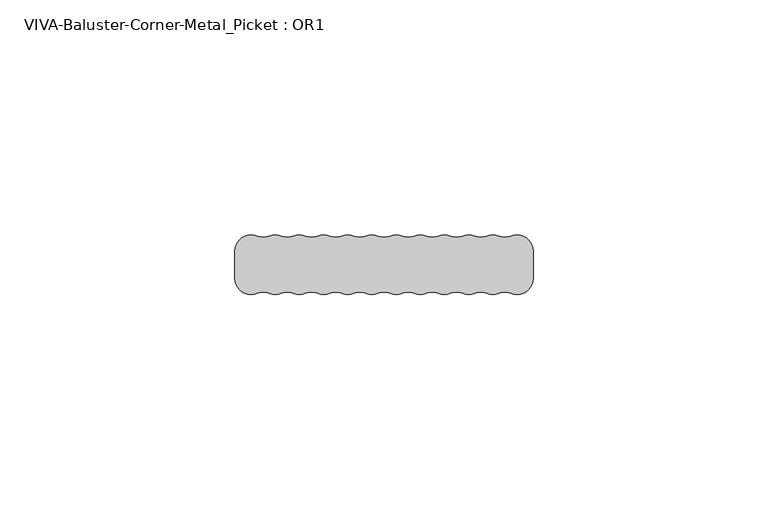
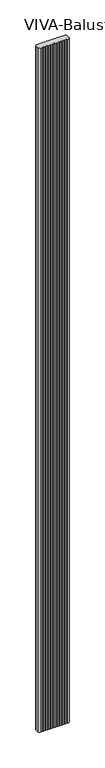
"""IFC4 building model written with IfcOpenShell, lengths in millimetres: railing geometry, VIVA-Baluster-Corner-Metal_Picket : OR1."""

from ifc_helpers import new_model, si_unit, frame, origin, place, context, project, spatial, polyline, circle_curve, source, transform, mapped, element, save
from ifc_brep_helpers import plane_surface, cylinder_surface, revolved_surface, advanced_brep


def viva_baluster_corner_metal_picket_or1_3f157a00(model_context):
    return source(origin(), model_context, "Body", "AdvancedBrep", [
        advanced_brep(
        [(51.9173652, 289.0424232, 1219.2), (49.3434933, 289.0424232, 1219.2), (46.7696213, 289.0424232, 1219.2), (44.1957493, 289.0424232, 1219.2), (41.6218774, 289.0424232, 1219.2), (39.0480054, 289.0424232, 1219.2), (36.4741335, 289.0424232, 1219.2), (33.9002615, 289.0424232, 1219.2), (31.3263895, 289.0424232, 1219.2), (28.7525176, 289.0424232, 1219.2), (26.1786456, 289.0424232, 1219.2), (23.6047737, 289.0424232, 1219.2), (21.0309017, 289.0424232, 1219.2), (18.4570297, 289.0424232, 1219.2), (15.8831578, 289.0424232, 1219.2), (13.3092858, 289.0424232, 1219.2), (10.7354138, 289.0424232, 1219.2), (8.1615419, 289.0424232, 1219.2), (5.5876699, 289.0424232, 1219.2), (3.013798, 289.0424232, 1219.2), (0.439926, 289.0424232, 1219.2), (-2.133946, 289.0424232, 1219.2), (-6.8582904, 285.8550148, 1219.2), (-6.8582904, 280.0298316, 1219.2), (-2.1339459, 276.8424232, 1219.2), (0.439926, 276.8424232, 1219.2), (3.013798, 276.8424232, 1219.2), (5.5876699, 276.8424232, 1219.2), (8.1615419, 276.8424232, 1219.2), (10.7354139, 276.8424232, 1219.2), (13.3092858, 276.8424232, 1219.2), (15.8831578, 276.8424232, 1219.2), (18.4570297, 276.8424232, 1219.2), (21.0309017, 276.8424232, 1219.2), (23.6047737, 276.8424232, 1219.2), (26.1786456, 276.8424232, 1219.2), (28.7525176, 276.8424232, 1219.2), (31.3263895, 276.8424232, 1219.2), (33.9002615, 276.8424232, 1219.2), (36.4741335, 276.8424232, 1219.2), (39.0480054, 276.8424232, 1219.2), (41.6218774, 276.8424232, 1219.2), (44.1957493, 276.8424232, 1219.2), (46.7696213, 276.8424232, 1219.2), (49.3434933, 276.8424232, 1219.2), (51.9173652, 276.8424232, 1219.2), (56.6417096, 280.0298317, 1219.2), (56.6417096, 285.8550148, 1219.2), (51.9173652, 289.0424232, -245.8945017), (56.6417096, 285.8550148, -245.8945017), (56.6417096, 280.0298317, -245.8945017), (51.9173652, 276.8424232, -245.8945017), (49.3434933, 276.8424232, -245.8945017), (46.7696213, 276.8424232, -245.8945017), (44.1957493, 276.8424232, -245.8945017), (41.6218774, 276.8424232, -245.8945017), (39.0480054, 276.8424232, -245.8945017), (36.4741335, 276.8424232, -245.8945017), (33.9002615, 276.8424232, -245.8945017), (31.3263895, 276.8424232, -245.8945017), (28.7525176, 276.8424232, -245.8945017), (26.1786456, 276.8424232, -245.8945017), (23.6047737, 276.8424232, -245.8945017), (21.0309017, 276.8424232, -245.8945017), (18.4570297, 276.8424232, -245.8945017), (15.8831578, 276.8424232, -245.8945017), (13.3092858, 276.8424232, -245.8945017), (10.7354138, 276.8424232, -245.8945017), (8.1615419, 276.8424232, -245.8945017), (5.5876699, 276.8424232, -245.8945017), (3.013798, 276.8424232, -245.8945017), (0.439926, 276.8424232, -245.8945017), (-2.133946, 276.8424232, -245.8945017), (-6.8582904, 280.0298317, -245.8945017), (-6.8582904, 285.8550148, -245.8945017), (-2.133946, 289.0424232, -245.8945017), (0.439926, 289.0424232, -245.8945017), (3.013798, 289.0424232, -245.8945017), (5.5876699, 289.0424232, -245.8945017), (8.1615419, 289.0424232, -245.8945017), (10.7354139, 289.0424232, -245.8945017), (13.3092858, 289.0424232, -245.8945017), (15.8831578, 289.0424232, -245.8945017), (18.4570297, 289.0424232, -245.8945017), (21.0309017, 289.0424232, -245.8945017), (23.6047737, 289.0424232, -245.8945017), (26.1786456, 289.0424232, -245.8945017), (28.7525176, 289.0424232, -245.8945017), (31.3263895, 289.0424232, -245.8945017), (33.9002615, 289.0424232, -245.8945017), (36.4741335, 289.0424232, -245.8945017), (39.0480054, 289.0424232, -245.8945017), (41.6218774, 289.0424232, -245.8945017), (44.1957493, 289.0424232, -245.8945017), (46.7696213, 289.0424232, -245.8945017), (49.3434933, 289.0424232, -245.8945017)],
        [
            (0, 1, circle_curve(frame((50.6304292, 292.2298317, 1219.2), z_axis=(0.0, 0.0, -1.0), x_axis=(1.0, 0.0, 0.0)), 3.4374084)),
            (1, 2, circle_curve(frame((48.0565573, 285.8550148, 1219.2), z_axis=(0.0, 0.0, 1.0), x_axis=(1.0, 0.0, 0.0)), 3.4374084)),
            (2, 3, circle_curve(frame((45.4826853, 292.2298317, 1219.2), z_axis=(0.0, 0.0, -1.0), x_axis=(1.0, 0.0, 0.0)), 3.4374084)),
            (3, 4, circle_curve(frame((42.9088134, 285.8550148, 1219.2), z_axis=(0.0, 0.0, 1.0), x_axis=(1.0, 0.0, 0.0)), 3.4374084)),
            (4, 5, circle_curve(frame((40.3349414, 292.2298317, 1219.2), z_axis=(0.0, 0.0, -1.0), x_axis=(1.0, 0.0, 0.0)), 3.4374084)),
            (5, 6, circle_curve(frame((37.7610694, 285.8550148, 1219.2), z_axis=(0.0, 0.0, 1.0), x_axis=(1.0, 0.0, 0.0)), 3.4374084)),
            (6, 7, circle_curve(frame((35.1871975, 292.2298317, 1219.2), z_axis=(0.0, 0.0, -1.0), x_axis=(1.0, 0.0, 0.0)), 3.4374084)),
            (7, 8, circle_curve(frame((32.6133255, 285.8550148, 1219.2), z_axis=(0.0, 0.0, 1.0), x_axis=(1.0, 0.0, 0.0)), 3.4374084)),
            (8, 9, circle_curve(frame((30.0394536, 292.2298317, 1219.2), z_axis=(0.0, 0.0, -1.0), x_axis=(1.0, 0.0, 0.0)), 3.4374084)),
            (9, 10, circle_curve(frame((27.4655816, 285.8550148, 1219.2), z_axis=(0.0, 0.0, 1.0), x_axis=(1.0, 0.0, 0.0)), 3.4374084)),
            (10, 11, circle_curve(frame((24.8917096, 292.2298317, 1219.2), z_axis=(0.0, 0.0, -1.0), x_axis=(1.0, 0.0, 0.0)), 3.4374084)),
            (11, 12, circle_curve(frame((22.3178377, 285.8550148, 1219.2), z_axis=(0.0, 0.0, 1.0), x_axis=(1.0, 0.0, 0.0)), 3.4374084)),
            (12, 13, circle_curve(frame((19.7439657, 292.2298317, 1219.2), z_axis=(0.0, 0.0, -1.0), x_axis=(1.0, 0.0, 0.0)), 3.4374084)),
            (13, 14, circle_curve(frame((17.1700938, 285.8550148, 1219.2), z_axis=(0.0, 0.0, 1.0), x_axis=(1.0, 0.0, 0.0)), 3.4374084)),
            (14, 15, circle_curve(frame((14.5962218, 292.2298317, 1219.2), z_axis=(0.0, 0.0, -1.0), x_axis=(1.0, 0.0, 0.0)), 3.4374084)),
            (15, 16, circle_curve(frame((12.0223498, 285.8550148, 1219.2), z_axis=(0.0, 0.0, 1.0), x_axis=(1.0, 0.0, 0.0)), 3.4374084)),
            (16, 17, circle_curve(frame((9.4484779, 292.2298317, 1219.2), z_axis=(0.0, 0.0, -1.0), x_axis=(1.0, 0.0, 0.0)), 3.4374084)),
            (17, 18, circle_curve(frame((6.8746059, 285.8550148, 1219.2), z_axis=(0.0, 0.0, 1.0), x_axis=(1.0, 0.0, 0.0)), 3.4374084)),
            (18, 19, circle_curve(frame((4.3007339, 292.2298316, 1219.2), z_axis=(0.0, 0.0, -1.0), x_axis=(1.0, 0.0, 0.0)), 3.4374084)),
            (19, 20, circle_curve(frame((1.726862, 285.8550148, 1219.2), z_axis=(0.0, 0.0, 1.0), x_axis=(1.0, 0.0, 0.0)), 3.4374084)),
            (20, 21, circle_curve(frame((-0.84701, 292.2298316, 1219.2), z_axis=(0.0, 0.0, -1.0), x_axis=(1.0, 0.0, 0.0)), 3.4374084)),
            (21, 22, circle_curve(frame((-3.4208819, 285.8550148, 1219.2), z_axis=(0.0, 0.0, 1.0), x_axis=(1.0, 0.0, 0.0)), 3.4374084)),
            (22, 23),
            (23, 24, circle_curve(frame((-3.4208819, 280.0298317, 1219.2), z_axis=(0.0, 0.0, 1.0), x_axis=(1.0, 0.0, 0.0)), 3.4374084)),
            (24, 25, circle_curve(frame((-0.84701, 273.6550148, 1219.2), z_axis=(0.0, 0.0, -1.0), x_axis=(1.0, 0.0, 0.0)), 3.4374084)),
            (25, 26, circle_curve(frame((1.726862, 280.0298317, 1219.2), z_axis=(0.0, 0.0, 1.0), x_axis=(1.0, 0.0, 0.0)), 3.4374084)),
            (26, 27, circle_curve(frame((4.3007339, 273.6550148, 1219.2), z_axis=(0.0, 0.0, -1.0), x_axis=(1.0, 0.0, 0.0)), 3.4374084)),
            (27, 28, circle_curve(frame((6.8746059, 280.0298317, 1219.2), z_axis=(0.0, 0.0, 1.0), x_axis=(1.0, 0.0, 0.0)), 3.4374084)),
            (28, 29, circle_curve(frame((9.4484779, 273.6550148, 1219.2), z_axis=(0.0, 0.0, -1.0), x_axis=(1.0, 0.0, 0.0)), 3.4374084)),
            (29, 30, circle_curve(frame((12.0223498, 280.0298317, 1219.2), z_axis=(0.0, 0.0, 1.0), x_axis=(1.0, 0.0, 0.0)), 3.4374084)),
            (30, 31, circle_curve(frame((14.5962218, 273.6550148, 1219.2), z_axis=(0.0, 0.0, -1.0), x_axis=(1.0, 0.0, 0.0)), 3.4374084)),
            (31, 32, circle_curve(frame((17.1700938, 280.0298317, 1219.2), z_axis=(0.0, 0.0, 1.0), x_axis=(1.0, 0.0, 0.0)), 3.4374084)),
            (32, 33, circle_curve(frame((19.7439657, 273.6550148, 1219.2), z_axis=(0.0, 0.0, -1.0), x_axis=(1.0, 0.0, 0.0)), 3.4374084)),
            (33, 34, circle_curve(frame((22.3178377, 280.0298317, 1219.2), z_axis=(0.0, 0.0, 1.0), x_axis=(1.0, 0.0, 0.0)), 3.4374084)),
            (34, 35, circle_curve(frame((24.8917096, 273.6550148, 1219.2), z_axis=(0.0, 0.0, -1.0), x_axis=(1.0, 0.0, 0.0)), 3.4374084)),
            (35, 36, circle_curve(frame((27.4655816, 280.0298317, 1219.2), z_axis=(0.0, 0.0, 1.0), x_axis=(1.0, 0.0, 0.0)), 3.4374084)),
            (36, 37, circle_curve(frame((30.0394536, 273.6550148, 1219.2), z_axis=(0.0, 0.0, -1.0), x_axis=(1.0, 0.0, 0.0)), 3.4374084)),
            (37, 38, circle_curve(frame((32.6133255, 280.0298317, 1219.2), z_axis=(0.0, 0.0, 1.0), x_axis=(1.0, 0.0, 0.0)), 3.4374084)),
            (38, 39, circle_curve(frame((35.1871975, 273.6550148, 1219.2), z_axis=(0.0, 0.0, -1.0), x_axis=(1.0, 0.0, 0.0)), 3.4374084)),
            (39, 40, circle_curve(frame((37.7610694, 280.0298317, 1219.2), z_axis=(0.0, 0.0, 1.0), x_axis=(1.0, 0.0, 0.0)), 3.4374084)),
            (40, 41, circle_curve(frame((40.3349414, 273.6550148, 1219.2), z_axis=(0.0, 0.0, -1.0), x_axis=(1.0, 0.0, 0.0)), 3.4374084)),
            (41, 42, circle_curve(frame((42.9088134, 280.0298317, 1219.2), z_axis=(0.0, 0.0, 1.0), x_axis=(1.0, 0.0, 0.0)), 3.4374084)),
            (42, 43, circle_curve(frame((45.4826853, 273.6550148, 1219.2), z_axis=(0.0, 0.0, -1.0), x_axis=(1.0, 0.0, 0.0)), 3.4374084)),
            (43, 44, circle_curve(frame((48.0565573, 280.0298317, 1219.2), z_axis=(0.0, 0.0, 1.0), x_axis=(1.0, 0.0, 0.0)), 3.4374084)),
            (44, 45, circle_curve(frame((50.6304292, 273.6550148, 1219.2), z_axis=(0.0, 0.0, -1.0), x_axis=(1.0, 0.0, 0.0)), 3.4374084)),
            (45, 46, circle_curve(frame((53.2043012, 280.0298317, 1219.2), z_axis=(0.0, 0.0, 1.0), x_axis=(1.0, 0.0, 0.0)), 3.4374084)),
            (46, 47),
            (47, 0, circle_curve(frame((53.2043012, 285.8550148, 1219.2), z_axis=(0.0, 0.0, 1.0), x_axis=(1.0, 0.0, 0.0)), 3.4374084)),
            (48, 49, circle_curve(frame((53.2043012, 285.8550148, -245.8945017), z_axis=(0.0, 0.0, -1.0), x_axis=(1.0, 0.0, 0.0)), 3.4374084)),
            (49, 50),
            (50, 51, circle_curve(frame((53.2043012, 280.0298317, -245.8945017), z_axis=(0.0, 0.0, -1.0), x_axis=(1.0, 0.0, 0.0)), 3.4374084)),
            (51, 52, circle_curve(frame((50.6304292, 273.6550148, -245.8945017), z_axis=(0.0, 0.0, 1.0), x_axis=(1.0, 0.0, 0.0)), 3.4374084)),
            (52, 53, circle_curve(frame((48.0565573, 280.0298317, -245.8945017), z_axis=(0.0, 0.0, -1.0), x_axis=(1.0, 0.0, 0.0)), 3.4374084)),
            (53, 54, circle_curve(frame((45.4826853, 273.6550148, -245.8945017), z_axis=(0.0, 0.0, 1.0), x_axis=(1.0, 0.0, 0.0)), 3.4374084)),
            (54, 55, circle_curve(frame((42.9088134, 280.0298317, -245.8945017), z_axis=(0.0, 0.0, -1.0), x_axis=(1.0, 0.0, 0.0)), 3.4374084)),
            (55, 56, circle_curve(frame((40.3349414, 273.6550148, -245.8945017), z_axis=(0.0, 0.0, 1.0), x_axis=(1.0, 0.0, 0.0)), 3.4374084)),
            (56, 57, circle_curve(frame((37.7610694, 280.0298317, -245.8945017), z_axis=(0.0, 0.0, -1.0), x_axis=(1.0, 0.0, 0.0)), 3.4374084)),
            (57, 58, circle_curve(frame((35.1871975, 273.6550148, -245.8945017), z_axis=(0.0, 0.0, 1.0), x_axis=(1.0, 0.0, 0.0)), 3.4374084)),
            (58, 59, circle_curve(frame((32.6133255, 280.0298317, -245.8945017), z_axis=(0.0, 0.0, -1.0), x_axis=(1.0, 0.0, 0.0)), 3.4374084)),
            (59, 60, circle_curve(frame((30.0394536, 273.6550148, -245.8945017), z_axis=(0.0, 0.0, 1.0), x_axis=(1.0, 0.0, 0.0)), 3.4374084)),
            (60, 61, circle_curve(frame((27.4655816, 280.0298317, -245.8945017), z_axis=(0.0, 0.0, -1.0), x_axis=(1.0, 0.0, 0.0)), 3.4374084)),
            (61, 62, circle_curve(frame((24.8917096, 273.6550148, -245.8945017), z_axis=(0.0, 0.0, 1.0), x_axis=(1.0, 0.0, 0.0)), 3.4374084)),
            (62, 63, circle_curve(frame((22.3178377, 280.0298317, -245.8945017), z_axis=(0.0, 0.0, -1.0), x_axis=(1.0, 0.0, 0.0)), 3.4374084)),
            (63, 64, circle_curve(frame((19.7439657, 273.6550148, -245.8945017), z_axis=(0.0, 0.0, 1.0), x_axis=(1.0, 0.0, 0.0)), 3.4374084)),
            (64, 65, circle_curve(frame((17.1700938, 280.0298317, -245.8945017), z_axis=(0.0, 0.0, -1.0), x_axis=(1.0, 0.0, 0.0)), 3.4374084)),
            (65, 66, circle_curve(frame((14.5962218, 273.6550148, -245.8945017), z_axis=(0.0, 0.0, 1.0), x_axis=(1.0, 0.0, 0.0)), 3.4374084)),
            (66, 67, circle_curve(frame((12.0223498, 280.0298317, -245.8945017), z_axis=(0.0, 0.0, -1.0), x_axis=(1.0, 0.0, 0.0)), 3.4374084)),
            (67, 68, circle_curve(frame((9.4484779, 273.6550148, -245.8945017), z_axis=(0.0, 0.0, 1.0), x_axis=(1.0, 0.0, 0.0)), 3.4374084)),
            (68, 69, circle_curve(frame((6.8746059, 280.0298317, -245.8945017), z_axis=(0.0, 0.0, -1.0), x_axis=(1.0, 0.0, 0.0)), 3.4374084)),
            (69, 70, circle_curve(frame((4.3007339, 273.6550148, -245.8945017), z_axis=(0.0, 0.0, 1.0), x_axis=(1.0, 0.0, 0.0)), 3.4374084)),
            (70, 71, circle_curve(frame((1.726862, 280.0298317, -245.8945017), z_axis=(0.0, 0.0, -1.0), x_axis=(1.0, 0.0, 0.0)), 3.4374084)),
            (71, 72, circle_curve(frame((-0.84701, 273.6550148, -245.8945017), z_axis=(0.0, 0.0, 1.0), x_axis=(1.0, 0.0, 0.0)), 3.4374084)),
            (72, 73, circle_curve(frame((-3.4208819, 280.0298317, -245.8945017), z_axis=(0.0, 0.0, -1.0), x_axis=(1.0, 0.0, 0.0)), 3.4374084)),
            (73, 74),
            (74, 75, circle_curve(frame((-3.4208819, 285.8550148, -245.8945017), z_axis=(0.0, 0.0, -1.0), x_axis=(1.0, 0.0, 0.0)), 3.4374084)),
            (75, 76, circle_curve(frame((-0.84701, 292.2298316, -245.8945017), z_axis=(0.0, 0.0, 1.0), x_axis=(1.0, 0.0, 0.0)), 3.4374084)),
            (76, 77, circle_curve(frame((1.726862, 285.8550148, -245.8945017), z_axis=(0.0, 0.0, -1.0), x_axis=(1.0, 0.0, 0.0)), 3.4374084)),
            (77, 78, circle_curve(frame((4.3007339, 292.2298316, -245.8945017), z_axis=(0.0, 0.0, 1.0), x_axis=(1.0, 0.0, 0.0)), 3.4374084)),
            (78, 79, circle_curve(frame((6.8746059, 285.8550148, -245.8945017), z_axis=(0.0, 0.0, -1.0), x_axis=(1.0, 0.0, 0.0)), 3.4374084)),
            (79, 80, circle_curve(frame((9.4484779, 292.2298317, -245.8945017), z_axis=(0.0, 0.0, 1.0), x_axis=(1.0, 0.0, 0.0)), 3.4374084)),
            (80, 81, circle_curve(frame((12.0223498, 285.8550148, -245.8945017), z_axis=(0.0, 0.0, -1.0), x_axis=(1.0, 0.0, 0.0)), 3.4374084)),
            (81, 82, circle_curve(frame((14.5962218, 292.2298317, -245.8945017), z_axis=(0.0, 0.0, 1.0), x_axis=(1.0, 0.0, 0.0)), 3.4374084)),
            (82, 83, circle_curve(frame((17.1700938, 285.8550148, -245.8945017), z_axis=(0.0, 0.0, -1.0), x_axis=(1.0, 0.0, 0.0)), 3.4374084)),
            (83, 84, circle_curve(frame((19.7439657, 292.2298317, -245.8945017), z_axis=(0.0, 0.0, 1.0), x_axis=(1.0, 0.0, 0.0)), 3.4374084)),
            (84, 85, circle_curve(frame((22.3178377, 285.8550148, -245.8945017), z_axis=(0.0, 0.0, -1.0), x_axis=(1.0, 0.0, 0.0)), 3.4374084)),
            (85, 86, circle_curve(frame((24.8917096, 292.2298317, -245.8945017), z_axis=(0.0, 0.0, 1.0), x_axis=(1.0, 0.0, 0.0)), 3.4374084)),
            (86, 87, circle_curve(frame((27.4655816, 285.8550148, -245.8945017), z_axis=(0.0, 0.0, -1.0), x_axis=(1.0, 0.0, 0.0)), 3.4374084)),
            (87, 88, circle_curve(frame((30.0394536, 292.2298317, -245.8945017), z_axis=(0.0, 0.0, 1.0), x_axis=(1.0, 0.0, 0.0)), 3.4374084)),
            (88, 89, circle_curve(frame((32.6133255, 285.8550148, -245.8945017), z_axis=(0.0, 0.0, -1.0), x_axis=(1.0, 0.0, 0.0)), 3.4374084)),
            (89, 90, circle_curve(frame((35.1871975, 292.2298317, -245.8945017), z_axis=(0.0, 0.0, 1.0), x_axis=(1.0, 0.0, 0.0)), 3.4374084)),
            (90, 91, circle_curve(frame((37.7610694, 285.8550148, -245.8945017), z_axis=(0.0, 0.0, -1.0), x_axis=(1.0, 0.0, 0.0)), 3.4374084)),
            (91, 92, circle_curve(frame((40.3349414, 292.2298317, -245.8945017), z_axis=(0.0, 0.0, 1.0), x_axis=(1.0, 0.0, 0.0)), 3.4374084)),
            (92, 93, circle_curve(frame((42.9088134, 285.8550148, -245.8945017), z_axis=(0.0, 0.0, -1.0), x_axis=(1.0, 0.0, 0.0)), 3.4374084)),
            (93, 94, circle_curve(frame((45.4826853, 292.2298317, -245.8945017), z_axis=(0.0, 0.0, 1.0), x_axis=(1.0, 0.0, 0.0)), 3.4374084)),
            (94, 95, circle_curve(frame((48.0565573, 285.8550148, -245.8945017), z_axis=(0.0, 0.0, -1.0), x_axis=(1.0, 0.0, 0.0)), 3.4374084)),
            (95, 48, circle_curve(frame((50.6304292, 292.2298317, -245.8945017), z_axis=(0.0, 0.0, 1.0), x_axis=(1.0, 0.0, 0.0)), 3.4374084)),
            (0, 48),
            (95, 1),
            (94, 2),
            (93, 3),
            (92, 4),
            (91, 5),
            (90, 6),
            (89, 7),
            (88, 8),
            (87, 9),
            (86, 10),
            (85, 11),
            (84, 12),
            (83, 13),
            (82, 14),
            (81, 15),
            (80, 16),
            (79, 17),
            (78, 18),
            (77, 19),
            (76, 20),
            (75, 21),
            (74, 22),
            (73, 23),
            (72, 24),
            (71, 25),
            (70, 26),
            (69, 27),
            (68, 28),
            (67, 29),
            (66, 30),
            (65, 31),
            (64, 32),
            (63, 33),
            (62, 34),
            (61, 35),
            (60, 36),
            (59, 37),
            (58, 38),
            (57, 39),
            (56, 40),
            (55, 41),
            (54, 42),
            (53, 43),
            (52, 44),
            (51, 45),
            (50, 46),
            (49, 47),
        ],
        [
            plane_surface(frame((54.0678377, 292.2298317, 1219.2), z_axis=(0.0, 0.0, 1.0), x_axis=(0.0, -1.0, 0.0))),
            plane_surface(frame((54.0678377, 292.2298317, -245.8945017), z_axis=(0.0, 0.0, -1.0), x_axis=(0.0, 1.0, 0.0))),
            revolved_surface(polyline([(54.067837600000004, 292.2298317, -245.8945017), (54.067837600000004, 292.2298317, 1219.2)]), (50.6304292, 292.2298317, -245.8945017), (0.0, 0.0, -1.0)),
            cylinder_surface(frame((48.0565573, 285.8550148, -245.8945017), z_axis=(0.0, 0.0, 1.0), x_axis=(1.0, 0.0, 0.0)), 3.4374084),
            revolved_surface(polyline([(48.9200937, 292.2298317, -245.8945017), (48.9200937, 292.2298317, 1219.2)]), (45.4826853, 292.2298317, -245.8945017), (0.0, 0.0, -1.0)),
            cylinder_surface(frame((42.9088134, 285.8550148, -245.8945017), z_axis=(0.0, 0.0, 1.0), x_axis=(1.0, 0.0, 0.0)), 3.4374084),
            revolved_surface(polyline([(43.7723498, 292.2298317, -245.8945017), (43.7723498, 292.2298317, 1219.2)]), (40.3349414, 292.2298317, -245.8945017), (0.0, 0.0, -1.0)),
            cylinder_surface(frame((37.7610694, 285.8550148, -245.8945017), z_axis=(0.0, 0.0, 1.0), x_axis=(1.0, 0.0, 0.0)), 3.4374084),
            revolved_surface(polyline([(38.624605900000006, 292.2298317, -245.8945017), (38.624605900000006, 292.2298317, 1219.2)]), (35.1871975, 292.2298317, -245.8945017), (0.0, 0.0, -1.0)),
            cylinder_surface(frame((32.6133255, 285.8550148, -245.8945017), z_axis=(0.0, 0.0, 1.0), x_axis=(1.0, 0.0, 0.0)), 3.4374084),
            revolved_surface(polyline([(33.476862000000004, 292.2298317, -245.8945017), (33.476862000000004, 292.2298317, 1219.2)]), (30.0394536, 292.2298317, -245.8945017), (0.0, 0.0, -1.0)),
            cylinder_surface(frame((27.4655816, 285.8550148, -245.8945017), z_axis=(0.0, 0.0, 1.0), x_axis=(1.0, 0.0, 0.0)), 3.4374084),
            revolved_surface(polyline([(28.329117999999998, 292.2298317, -245.8945017), (28.329117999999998, 292.2298317, 1219.2)]), (24.8917096, 292.2298317, -245.8945017), (0.0, 0.0, -1.0)),
            cylinder_surface(frame((22.3178377, 285.8550148, -245.8945017), z_axis=(0.0, 0.0, 1.0), x_axis=(1.0, 0.0, 0.0)), 3.4374084),
            revolved_surface(polyline([(23.1813741, 292.2298317, -245.8945017), (23.1813741, 292.2298317, 1219.2)]), (19.7439657, 292.2298317, -245.8945017), (0.0, 0.0, -1.0)),
            cylinder_surface(frame((17.1700938, 285.8550148, -245.8945017), z_axis=(0.0, 0.0, 1.0), x_axis=(1.0, 0.0, 0.0)), 3.4374084),
            revolved_surface(polyline([(18.0336302, 292.2298317, -245.8945017), (18.0336302, 292.2298317, 1219.2)]), (14.5962218, 292.2298317, -245.8945017), (0.0, 0.0, -1.0)),
            cylinder_surface(frame((12.0223498, 285.8550148, -245.8945017), z_axis=(0.0, 0.0, 1.0), x_axis=(1.0, 0.0, 0.0)), 3.4374084),
            revolved_surface(polyline([(12.8858863, 292.2298317, -245.8945017), (12.8858863, 292.2298317, 1219.2)]), (9.4484779, 292.2298317, -245.8945017), (0.0, 0.0, -1.0)),
            cylinder_surface(frame((6.8746059, 285.8550148, -245.8945017), z_axis=(0.0, 0.0, 1.0), x_axis=(1.0, 0.0, 0.0)), 3.4374084),
            revolved_surface(polyline([(7.7381423, 292.2298316, -245.8945017), (7.7381423, 292.2298316, 1219.2)]), (4.3007339, 292.2298316, -245.8945017), (0.0, 0.0, -1.0)),
            cylinder_surface(frame((1.726862, 285.8550148, -245.8945017), z_axis=(0.0, 0.0, 1.0), x_axis=(1.0, 0.0, 0.0)), 3.4374084),
            revolved_surface(polyline([(2.5903983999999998, 292.2298316, -245.8945017), (2.5903983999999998, 292.2298316, 1219.2)]), (-0.84701, 292.2298316, -245.8945017), (0.0, 0.0, -1.0)),
            cylinder_surface(frame((-3.4208819, 285.8550148, -245.8945017), z_axis=(0.0, 0.0, 1.0), x_axis=(1.0, 0.0, 0.0)), 3.4374084),
            plane_surface(frame((-6.8582904, 285.8550148, 1219.2), z_axis=(-1.0, -1.9243850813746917e-11, 0.0), x_axis=(0.0, 0.0, -1.0))),
            cylinder_surface(frame((-3.4208819, 280.0298317, -245.8945017), z_axis=(0.0, 0.0, 1.0), x_axis=(1.0, 0.0, 0.0)), 3.4374084),
            revolved_surface(polyline([(2.5903983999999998, 273.6550148, -245.8945017), (2.5903983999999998, 273.6550148, 1219.2)]), (-0.84701, 273.6550148, -245.8945017), (0.0, 0.0, -1.0)),
            cylinder_surface(frame((1.726862, 280.0298317, -245.8945017), z_axis=(0.0, 0.0, 1.0), x_axis=(1.0, 0.0, 0.0)), 3.4374084),
            revolved_surface(polyline([(7.7381423, 273.6550148, -245.8945017), (7.7381423, 273.6550148, 1219.2)]), (4.3007339, 273.6550148, -245.8945017), (0.0, 0.0, -1.0)),
            cylinder_surface(frame((6.8746059, 280.0298317, -245.8945017), z_axis=(0.0, 0.0, 1.0), x_axis=(1.0, 0.0, 0.0)), 3.4374084),
            revolved_surface(polyline([(12.8858863, 273.6550148, -245.8945017), (12.8858863, 273.6550148, 1219.2)]), (9.4484779, 273.6550148, -245.8945017), (0.0, 0.0, -1.0)),
            cylinder_surface(frame((12.0223498, 280.0298317, -245.8945017), z_axis=(0.0, 0.0, 1.0), x_axis=(1.0, 0.0, 0.0)), 3.4374084),
            revolved_surface(polyline([(18.0336302, 273.6550148, -245.8945017), (18.0336302, 273.6550148, 1219.2)]), (14.5962218, 273.6550148, -245.8945017), (0.0, 0.0, -1.0)),
            cylinder_surface(frame((17.1700938, 280.0298317, -245.8945017), z_axis=(0.0, 0.0, 1.0), x_axis=(1.0, 0.0, 0.0)), 3.4374084),
            revolved_surface(polyline([(23.1813741, 273.6550148, -245.8945017), (23.1813741, 273.6550148, 1219.2)]), (19.7439657, 273.6550148, -245.8945017), (0.0, 0.0, -1.0)),
            cylinder_surface(frame((22.3178377, 280.0298317, -245.8945017), z_axis=(0.0, 0.0, 1.0), x_axis=(1.0, 0.0, 0.0)), 3.4374084),
            revolved_surface(polyline([(28.329117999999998, 273.6550148, -245.8945017), (28.329117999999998, 273.6550148, 1219.2)]), (24.8917096, 273.6550148, -245.8945017), (0.0, 0.0, -1.0)),
            cylinder_surface(frame((27.4655816, 280.0298317, -245.8945017), z_axis=(0.0, 0.0, 1.0), x_axis=(1.0, 0.0, 0.0)), 3.4374084),
            revolved_surface(polyline([(33.476862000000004, 273.6550148, -245.8945017), (33.476862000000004, 273.6550148, 1219.2)]), (30.0394536, 273.6550148, -245.8945017), (0.0, 0.0, -1.0)),
            cylinder_surface(frame((32.6133255, 280.0298317, -245.8945017), z_axis=(0.0, 0.0, 1.0), x_axis=(1.0, 0.0, 0.0)), 3.4374084),
            revolved_surface(polyline([(38.624605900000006, 273.6550148, -245.8945017), (38.624605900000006, 273.6550148, 1219.2)]), (35.1871975, 273.6550148, -245.8945017), (0.0, 0.0, -1.0)),
            cylinder_surface(frame((37.7610694, 280.0298317, -245.8945017), z_axis=(0.0, 0.0, 1.0), x_axis=(1.0, 0.0, 0.0)), 3.4374084),
            revolved_surface(polyline([(43.7723498, 273.6550148, -245.8945017), (43.7723498, 273.6550148, 1219.2)]), (40.3349414, 273.6550148, -245.8945017), (0.0, 0.0, -1.0)),
            cylinder_surface(frame((42.9088134, 280.0298317, -245.8945017), z_axis=(0.0, 0.0, 1.0), x_axis=(1.0, 0.0, 0.0)), 3.4374084),
            revolved_surface(polyline([(48.9200937, 273.6550148, -245.8945017), (48.9200937, 273.6550148, 1219.2)]), (45.4826853, 273.6550148, -245.8945017), (0.0, 0.0, -1.0)),
            cylinder_surface(frame((48.0565573, 280.0298317, -245.8945017), z_axis=(0.0, 0.0, 1.0), x_axis=(1.0, 0.0, 0.0)), 3.4374084),
            revolved_surface(polyline([(54.067837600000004, 273.6550148, -245.8945017), (54.067837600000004, 273.6550148, 1219.2)]), (50.6304292, 273.6550148, -245.8945017), (0.0, 0.0, -1.0)),
            cylinder_surface(frame((53.2043012, 280.0298317, -245.8945017), z_axis=(0.0, 0.0, 1.0), x_axis=(1.0, 0.0, 0.0)), 3.4374084),
            plane_surface(frame((56.6417096, 280.0298317, 1219.2), z_axis=(1.0, -1.9886310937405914e-11, 0.0), x_axis=(0.0, 0.0, -1.0))),
            cylinder_surface(frame((53.2043012, 285.8550148, -245.8945017), z_axis=(0.0, 0.0, 1.0), x_axis=(1.0, 0.0, 0.0)), 3.4374084),
        ],
        [
            (0, [[1, 2, 3, 4, 5, 6, 7, 8, 9, 10, 11, 12, 13, 14, 15, 16, 17, 18, 19, 20, 21, 22, 23, 24, 25, 26, 27, 28, 29, 30, 31, 32, 33, 34, 35, 36, 37, 38, 39, 40, 41, 42, 43, 44, 45, 46, 47, 48]]),
            (1, [[49, 50, 51, 52, 53, 54, 55, 56, 57, 58, 59, 60, 61, 62, 63, 64, 65, 66, 67, 68, 69, 70, 71, 72, 73, 74, 75, 76, 77, 78, 79, 80, 81, 82, 83, 84, 85, 86, 87, 88, 89, 90, 91, 92, 93, 94, 95, 96]]),
            (2, [[-1, 97, -96, 98]]),
            (3, [[-2, -98, -95, 99]]),
            (4, [[-3, -99, -94, 100]]),
            (5, [[-4, -100, -93, 101]]),
            (6, [[-5, -101, -92, 102]]),
            (7, [[-6, -102, -91, 103]]),
            (8, [[-7, -103, -90, 104]]),
            (9, [[-8, -104, -89, 105]]),
            (10, [[-9, -105, -88, 106]]),
            (11, [[-10, -106, -87, 107]]),
            (12, [[-11, -107, -86, 108]]),
            (13, [[-12, -108, -85, 109]]),
            (14, [[-13, -109, -84, 110]]),
            (15, [[-14, -110, -83, 111]]),
            (16, [[-15, -111, -82, 112]]),
            (17, [[-16, -112, -81, 113]]),
            (18, [[-17, -113, -80, 114]]),
            (19, [[-18, -114, -79, 115]]),
            (20, [[-19, -115, -78, 116]]),
            (21, [[-20, -116, -77, 117]]),
            (22, [[-21, -117, -76, 118]]),
            (23, [[-22, -118, -75, 119]]),
            (24, [[-23, -119, -74, 120]]),
            (25, [[-24, -120, -73, 121]]),
            (26, [[-25, -121, -72, 122]]),
            (27, [[-26, -122, -71, 123]]),
            (28, [[-27, -123, -70, 124]]),
            (29, [[-28, -124, -69, 125]]),
            (30, [[-29, -125, -68, 126]]),
            (31, [[-30, -126, -67, 127]]),
            (32, [[-31, -127, -66, 128]]),
            (33, [[-32, -128, -65, 129]]),
            (34, [[-33, -129, -64, 130]]),
            (35, [[-34, -130, -63, 131]]),
            (36, [[-35, -131, -62, 132]]),
            (37, [[-36, -132, -61, 133]]),
            (38, [[-37, -133, -60, 134]]),
            (39, [[-38, -134, -59, 135]]),
            (40, [[-39, -135, -58, 136]]),
            (41, [[-40, -136, -57, 137]]),
            (42, [[-41, -137, -56, 138]]),
            (43, [[-42, -138, -55, 139]]),
            (44, [[-43, -139, -54, 140]]),
            (45, [[-44, -140, -53, 141]]),
            (46, [[-45, -141, -52, 142]]),
            (47, [[-46, -142, -51, 143]]),
            (48, [[-47, -143, -50, 144]]),
            (49, [[-48, -144, -49, -97]]),
        ],
    ),
    ])


if __name__ == "__main__":
    model = new_model("IFC4")
    model_context = context("Model", 3, world=origin())
    ifc_project = project(units=[si_unit("LENGTHUNIT", "METRE", prefix="MILLI")], contexts=[model_context])
    site = spatial("IfcSite", under=ifc_project)
    building = spatial("IfcBuilding", under=site)
    placement = place(None, origin())
    viva_baluster_corner_metal_picket_or1_shape = viva_baluster_corner_metal_picket_or1_3f157a00(model_context)
    element("IfcRailing", 1, ObjectType="VIVA-Baluster-Corner-Metal_Picket : OR1", at=placement, inside=building, context=model_context, shape_type="MappedRepresentation", body=[
        mapped(viva_baluster_corner_metal_picket_or1_shape, transform((0.0, 0.0, 0.0), x_axis=(1.0, 0.0, 0.0), y_axis=(0.0, 1.0, 0.0), z_axis=(0.0, 0.0, 1.0))),
    ])
    save(model, "model.ifc")
